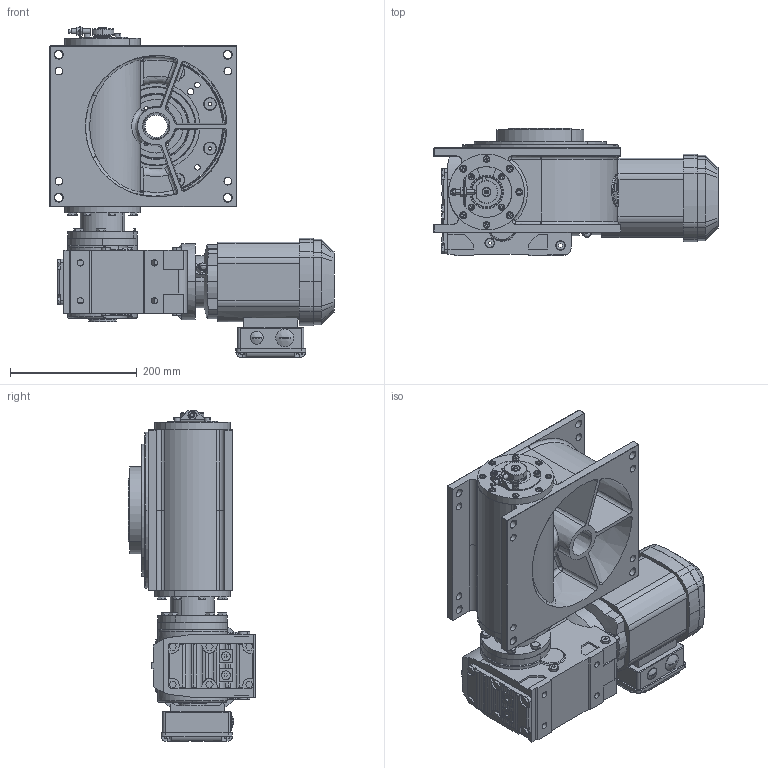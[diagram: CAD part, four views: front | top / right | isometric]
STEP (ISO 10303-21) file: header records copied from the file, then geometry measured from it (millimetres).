
FILE_DESCRIPTION (( 'STEP AP214' ), '1' );
FILE_NAME ('M210_SEW_KA37DRS71S4_E1_08.STEP', '2020-06-17T04:06:08', ( '' ), ( '' ), 'SwSTEP 2.0', 'SolidWorks 2020', '' );
FILE_SCHEMA (( 'AUTOMOTIVE_DESIGN' ));
Length unit declared in the file: millimetre
Products named in the file (1): M210_SEW_KA37DRS71S4_E1_08
Bounding box: 449 x 201 x 522 mm (x, y, z)
Surface area: 853902.2 mm2 (no closed solid volume)
Topology: 0 solids, 72 shells, 1486 faces, 4460 edges, 2977 vertices
Faces by surface type: plane 654, cylinder 458, cone 197, bspline 125, torus 52
Entity records: 75188 total; most frequent: CARTESIAN_POINT 19516, DIRECTION 8180, ORIENTED_EDGE 7620, EDGE_CURVE 4433, AXIS2_PLACEMENT_3D 2980, VERTEX_POINT 2977, VECTOR 2220, LINE 2220
